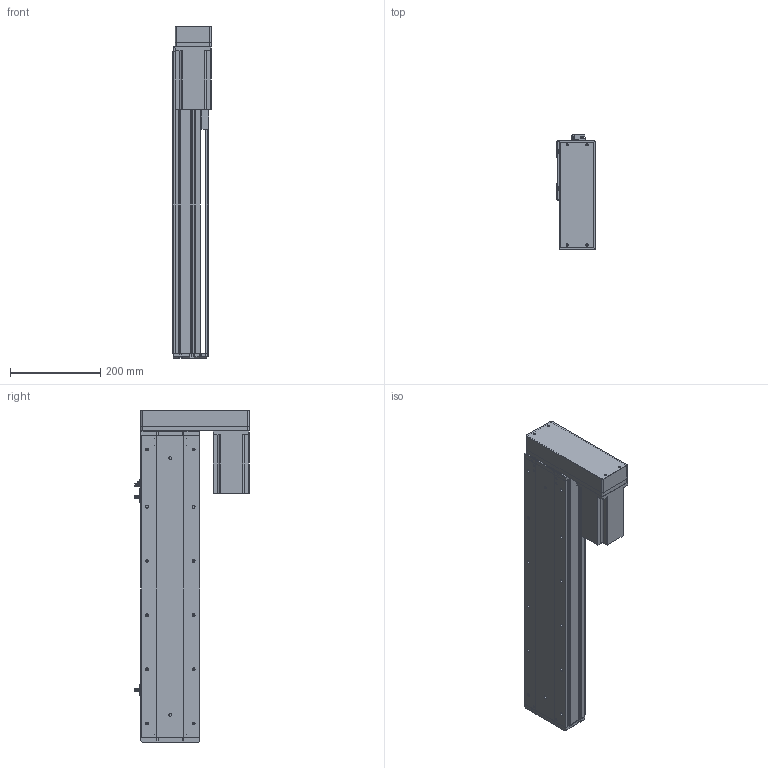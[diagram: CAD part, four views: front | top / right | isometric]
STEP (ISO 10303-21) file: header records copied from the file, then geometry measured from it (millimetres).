
FILE_DESCRIPTION (( 'STEP AP214' ), '1' );
FILE_NAME ('KSD130-P2010-S450-MR-CM.STEP', '2019-09-17T07:40:40', ( '微软用户' ), ( '微软中国' ), 'SwSTEP 2.0', 'SolidWorks 2014', '' );
FILE_SCHEMA (( 'AUTOMOTIVE_DESIGN' ));
Length unit declared in the file: millimetre
Products named in the file (11): 130宽模组保护罩左右折; 台达ECMA－C20807AS伺服电机; 130宽模组马达安装板连板左右折丝杆; U倰嫖萇EEㄜSX672; 覜茼え100遵圉猾敕; 130宽盖板半封闭丝杠-450行程; 130宽滚珠丝杆安装板半封闭-20丝杠; 130宽马达安装板半封闭; 130遵傷裔圉猾敕; 130宽底板半封闭丝杠-450行程; KSD130-P2010-S450-MR-CM
Assembly tree (12 placements, depth 2):
  KSD130-P2010-S450-MR-CM
    130宽底板半封闭丝杠-450行程
    130遵傷裔圉猾敕
    130宽马达安装板半封闭
    130宽滚珠丝杆安装板半封闭-20丝杠
    130宽盖板半封闭丝杠-450行程
    覜茼え100遵圉猾敕
    U倰嫖萇EEㄜSX672  x3
    130宽模组马达安装板连板左右折丝杆
    台达ECMA－C20807AS伺服电机
    130宽模组保护罩左右折
Bounding box: 85 x 253.7 x 735.5 mm (x, y, z)
Volume: 3310111.9 mm3; surface area: 872830 mm2
Topology: 13 solids, 13 shells, 1266 faces, 3551 edges, 2273 vertices
Faces by surface type: cylinder 589, plane 550, cone 127
Entity records: 40526 total; most frequent: CARTESIAN_POINT 7434, DIRECTION 6025, ORIENTED_EDGE 5814, EDGE_CURVE 2907, AXIS2_PLACEMENT_3D 2168, VERTEX_POINT 1897, LINE 1689, VECTOR 1689
